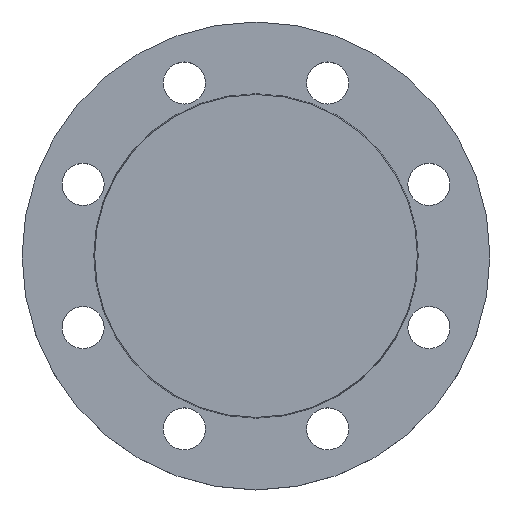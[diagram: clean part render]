
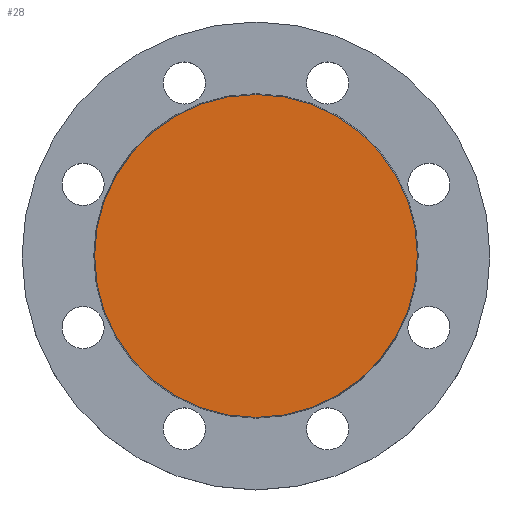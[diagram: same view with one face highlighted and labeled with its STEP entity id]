
A CAD part, top view. The second image highlights one B-rep face of the part: STEP entity #28.
In plain terms, the highlighted planar face has unit normal (0, 0, 1).
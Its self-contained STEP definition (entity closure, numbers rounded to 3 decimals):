
#28 = ADVANCED_FACE ( 'NONE', ( #768 ), #770, .T. ) ;
#36 = AXIS2_PLACEMENT_3D ( 'NONE', #373, #374, #375 ) ;
#49 = CIRCLE ( 'NONE', #36, 69. ) ;
#62 = AXIS2_PLACEMENT_3D ( 'NONE', #771, #772, #773 ) ;
#73 = EDGE_CURVE ( 'NONE', #742, #550, #616, .T. ) ;
#94 = EDGE_CURVE ( 'NONE', #550, #742, #49, .T. ) ;
#97 = AXIS2_PLACEMENT_3D ( 'NONE', #349, #351, #354 ) ;
#132 = CARTESIAN_POINT ( 'NONE',  ( -69., 0., 0. ) ) ;
#213 = CARTESIAN_POINT ( 'NONE',  ( 69., 0., 0. ) ) ;
#349 = CARTESIAN_POINT ( 'NONE',  ( 0., 0., 0. ) ) ;
#351 = DIRECTION ( 'NONE',  ( 0., 0., -1. ) ) ;
#354 = DIRECTION ( 'NONE',  ( -1., 0., 0. ) ) ;
#373 = CARTESIAN_POINT ( 'NONE',  ( 0., 0., 0. ) ) ;
#374 = DIRECTION ( 'NONE',  ( 0., 0., -1. ) ) ;
#375 = DIRECTION ( 'NONE',  ( -1., 0., 0. ) ) ;
#550 = VERTEX_POINT ( 'NONE', #213 ) ;
#616 = CIRCLE ( 'NONE', #97, 69. ) ;
#674 = EDGE_LOOP ( 'NONE', ( #675, #677 ) ) ;
#675 = ORIENTED_EDGE ( 'NONE', *, *, #73, .F. ) ;
#677 = ORIENTED_EDGE ( 'NONE', *, *, #94, .F. ) ;
#742 = VERTEX_POINT ( 'NONE', #132 ) ;
#768 = FACE_OUTER_BOUND ( 'NONE', #674, .T. ) ;
#770 = PLANE ( 'NONE',  #62 ) ;
#771 = CARTESIAN_POINT ( 'NONE',  ( 0., 0., 0. ) ) ;
#772 = DIRECTION ( 'NONE',  ( 0., 0., 1. ) ) ;
#773 = DIRECTION ( 'NONE',  ( 1., 0., 0. ) ) ;
